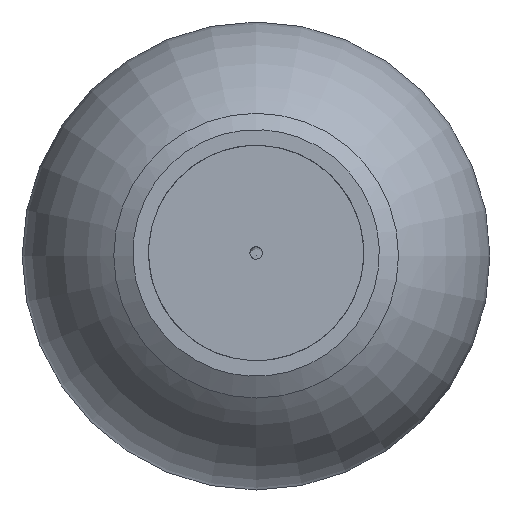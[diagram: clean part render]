
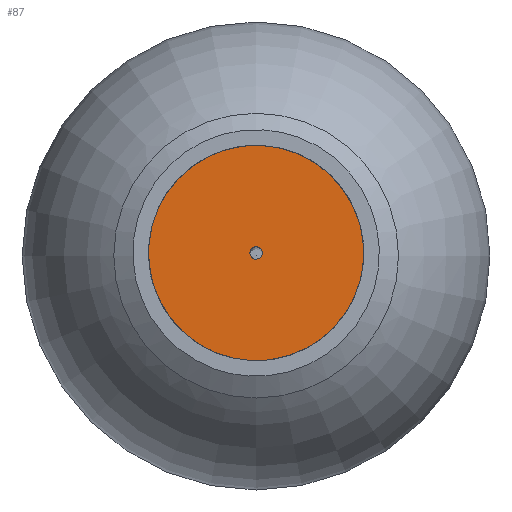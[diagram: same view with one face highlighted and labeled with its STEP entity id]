
A CAD part, top view. The second image highlights one B-rep face of the part: STEP entity #87.
In plain terms, the highlighted free-form (B-spline) face has degree [1, 1] with [2, 2] control points.
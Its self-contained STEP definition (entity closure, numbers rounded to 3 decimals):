
#87=ADVANCED_FACE('0:92',(#104,#105),#106,.F.);
#104=FACE_OUTER_BOUND('',#272,.T.);
#105=FACE_BOUND('',#273,.T.);
#106=B_SPLINE_SURFACE_WITH_KNOTS('',1,1,((#274,#275),(#276,#277)),.UNSPECIFIED.,.F.,.F.,.F.,(2,2),(2,2),(0.0,1.0),(0.0,1.0),.UNSPECIFIED.);
#272=EDGE_LOOP('',(#4811));
#273=EDGE_LOOP('',(#4812));
#274=CARTESIAN_POINT('',(33.918,1073.539,1105.106));
#275=CARTESIAN_POINT('',(-105.738,1073.539,1105.106));
#276=CARTESIAN_POINT('',(33.918,933.883,1105.106));
#277=CARTESIAN_POINT('',(-105.738,933.883,1105.106));
#4811=ORIENTED_EDGE('',*,*,#4855,.F.);
#4812=ORIENTED_EDGE('',*,*,#4856,.F.);
#4855=EDGE_CURVE('0:98',#4884,#4884,#4885,.T.);
#4856=EDGE_CURVE('0:104',#4886,#4886,#4887,.T.);
#4884=VERTEX_POINT('',#4940);
#4885=CIRCLE('',#4941,69.0);
#4886=VERTEX_POINT('',#4942);
#4887=CIRCLE('',#4943,4.0);
#4940=CARTESIAN_POINT('',(-40.2,934.845,1105.106));
#4941=AXIS2_PLACEMENT_3D('',#5579,#5580,#5581);
#4942=CARTESIAN_POINT('',(-36.159,999.719,1105.106));
#4943=AXIS2_PLACEMENT_3D('',#5582,#5583,#5584);
#5579=CARTESIAN_POINT('',(-35.91,1003.711,1105.106));
#5580=DIRECTION('',(0.,0.,-1.0));
#5581=DIRECTION('',(-0.062,-0.998,0.));
#5582=CARTESIAN_POINT('',(-35.91,1003.711,1105.106));
#5583=DIRECTION('',(0.,0.,1.0));
#5584=DIRECTION('',(-0.062,-0.998,0.));
